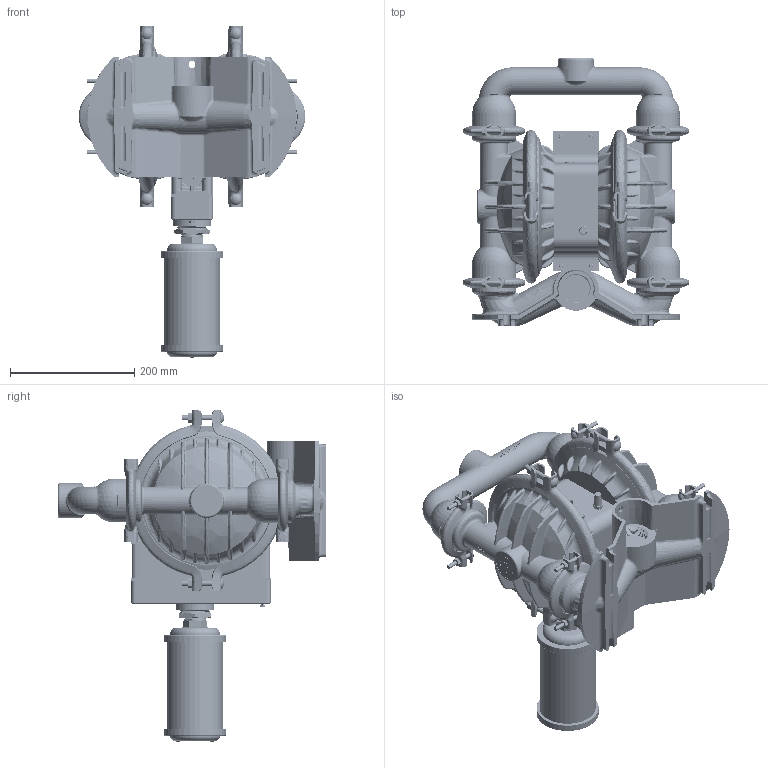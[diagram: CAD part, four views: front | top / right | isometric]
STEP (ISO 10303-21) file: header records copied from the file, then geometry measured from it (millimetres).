
FILE_DESCRIPTION (( 'STEP AP203' ), '1' );
FILE_NAME ('ps04_al_top.STEP', '2022-07-05T08:20:09', ( '' ), ( '' ), 'SwSTEP 2.0', 'SolidWorks 2019', '' );
FILE_SCHEMA (( 'CONFIG_CONTROL_DESIGN' ));
Length unit declared in the file: inch
Products named in the file (1): ps04_al_top
Bounding box: 364.81 x 431.93 x 535.11 mm (x, y, z)
Volume: 12540926.6 mm3; surface area: 951466.2 mm2
Topology: 1 solids, 1 shells, 8920 faces, 23779 edges, 15040 vertices
Faces by surface type: plane 5102, bspline 2005, cylinder 884, cone 503, torus 294, sphere 132
Entity records: 666678 total; most frequent: CARTESIAN_POINT 466795, ORIENTED_EDGE 47510, DIRECTION 32574, EDGE_CURVE 23755, VERTEX_POINT 15032, VECTOR 11714, LINE 11714, AXIS2_PLACEMENT_3D 10430
